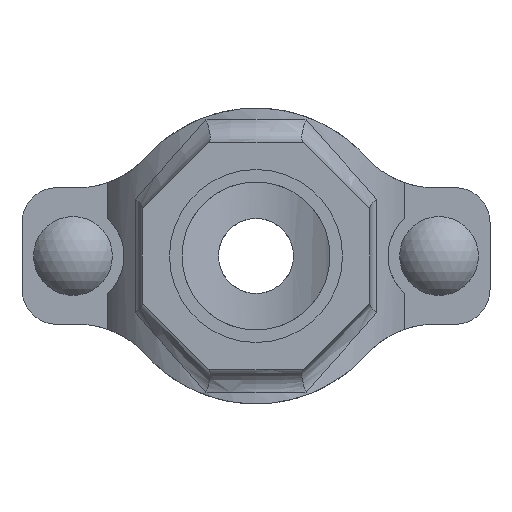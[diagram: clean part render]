
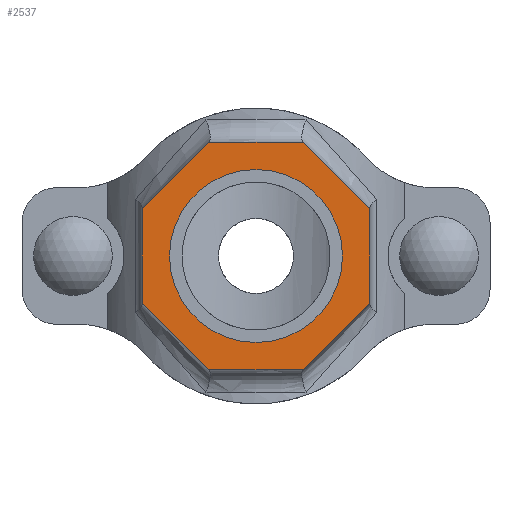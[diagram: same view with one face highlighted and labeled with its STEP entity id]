
A CAD part, front view. The second image highlights one B-rep face of the part: STEP entity #2537.
In plain terms, the highlighted planar face has unit normal (0, -1, 0) as drawn and (0, 1, 0) by its records, which use the part's own axes.
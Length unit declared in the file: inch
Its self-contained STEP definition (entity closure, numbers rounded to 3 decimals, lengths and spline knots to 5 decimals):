
#186=FACE_BOUND('',#457,.T.);
#305=FACE_OUTER_BOUND('',#456,.T.);
#456=EDGE_LOOP('',(#2126,#2127,#2128,#2129,#2130,#2131,#2132,#2133));
#457=EDGE_LOOP('',(#2134));
#594=LINE('',#4585,#780);
#597=LINE('',#4590,#783);
#599=LINE('',#4594,#785);
#601=LINE('',#4598,#787);
#637=LINE('',#5011,#823);
#639=LINE('',#5015,#825);
#641=LINE('',#5019,#827);
#643=LINE('',#5022,#829);
#780=VECTOR('',#3278,0.3937);
#783=VECTOR('',#3283,0.3937);
#785=VECTOR('',#3287,0.3937);
#787=VECTOR('',#3291,0.3937);
#823=VECTOR('',#3415,0.3937);
#825=VECTOR('',#3419,0.3937);
#827=VECTOR('',#3423,0.3937);
#829=VECTOR('',#3427,0.3937);
#915=CIRCLE('',#2798,0.95);
#1097=VERTEX_POINT('',#4582);
#1098=VERTEX_POINT('',#4584);
#1099=VERTEX_POINT('',#4588);
#1100=VERTEX_POINT('',#4592);
#1101=VERTEX_POINT('',#4596);
#1132=VERTEX_POINT('',#4860);
#1156=VERTEX_POINT('',#5010);
#1157=VERTEX_POINT('',#5014);
#1158=VERTEX_POINT('',#5018);
#1408=EDGE_CURVE('',#1098,#1097,#594,.T.);
#1411=EDGE_CURVE('',#1097,#1099,#597,.T.);
#1413=EDGE_CURVE('',#1099,#1100,#599,.T.);
#1415=EDGE_CURVE('',#1100,#1101,#601,.T.);
#1457=EDGE_CURVE('',#1132,#1132,#915,.T.);
#1489=EDGE_CURVE('',#1156,#1098,#637,.T.);
#1491=EDGE_CURVE('',#1157,#1156,#639,.T.);
#1493=EDGE_CURVE('',#1158,#1157,#641,.T.);
#1495=EDGE_CURVE('',#1101,#1158,#643,.T.);
#2126=ORIENTED_EDGE('',*,*,#1495,.T.);
#2127=ORIENTED_EDGE('',*,*,#1493,.T.);
#2128=ORIENTED_EDGE('',*,*,#1491,.T.);
#2129=ORIENTED_EDGE('',*,*,#1489,.T.);
#2130=ORIENTED_EDGE('',*,*,#1408,.T.);
#2131=ORIENTED_EDGE('',*,*,#1411,.T.);
#2132=ORIENTED_EDGE('',*,*,#1413,.T.);
#2133=ORIENTED_EDGE('',*,*,#1415,.T.);
#2134=ORIENTED_EDGE('',*,*,#1457,.T.);
#2278=PLANE('',#2821);
#2537=ADVANCED_FACE('',(#305,#186),#2278,.T.);
#2798=AXIS2_PLACEMENT_3D('',#4861,#3361,#3362);
#2821=AXIS2_PLACEMENT_3D('',#5023,#3428,#3429);
#3278=DIRECTION('',(0.,0.,1.));
#3283=DIRECTION('',(0.707,0.,0.707));
#3287=DIRECTION('',(1.,0.,0.));
#3291=DIRECTION('',(0.707,0.,-0.707));
#3361=DIRECTION('center_axis',(0.,-1.,0.));
#3362=DIRECTION('ref_axis',(-1.,0.,0.));
#3415=DIRECTION('',(-0.707,0.,0.707));
#3419=DIRECTION('',(-1.,0.,0.));
#3423=DIRECTION('',(-0.707,0.,-0.707));
#3427=DIRECTION('',(0.,0.,-1.));
#3428=DIRECTION('center_axis',(0.,1.,0.));
#3429=DIRECTION('ref_axis',(0.,0.,1.));
#4582=CARTESIAN_POINT('',(-1.25,3.,0.51777));
#4584=CARTESIAN_POINT('',(-1.25,3.,-0.51777));
#4585=CARTESIAN_POINT('',(-1.25,3.,0.51777));
#4588=CARTESIAN_POINT('',(-0.51777,3.,1.25));
#4590=CARTESIAN_POINT('',(-0.51777,3.,1.25));
#4592=CARTESIAN_POINT('',(0.51777,3.,1.25));
#4594=CARTESIAN_POINT('',(0.51777,3.,1.25));
#4596=CARTESIAN_POINT('',(1.25,3.,0.51777));
#4598=CARTESIAN_POINT('',(1.25,3.,0.51777));
#4860=CARTESIAN_POINT('',(0.95,3.,0.));
#4861=CARTESIAN_POINT('Origin',(0.,3.,0.));
#5010=CARTESIAN_POINT('',(-0.51777,3.,-1.25));
#5011=CARTESIAN_POINT('',(-1.25,3.,-0.51777));
#5014=CARTESIAN_POINT('',(0.51777,3.,-1.25));
#5015=CARTESIAN_POINT('',(-0.51777,3.,-1.25));
#5018=CARTESIAN_POINT('',(1.25,3.,-0.51777));
#5019=CARTESIAN_POINT('',(0.51777,3.,-1.25));
#5022=CARTESIAN_POINT('',(1.25,3.,-0.51777));
#5023=CARTESIAN_POINT('Origin',(0.,3.,0.));
